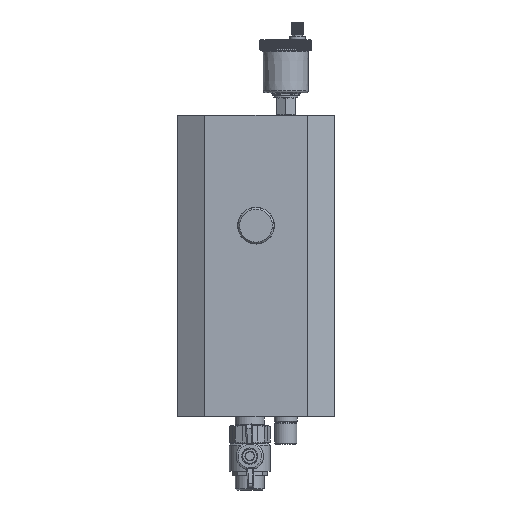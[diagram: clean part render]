
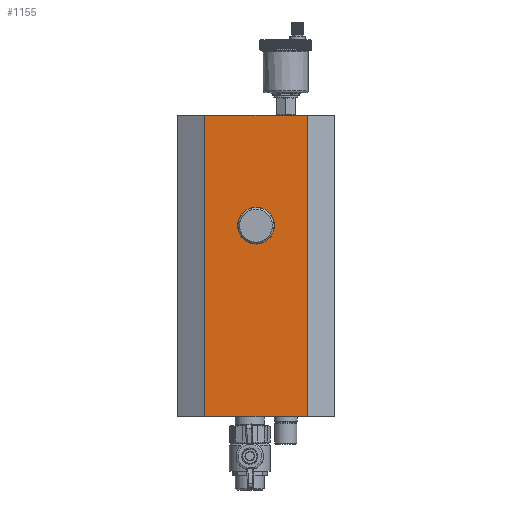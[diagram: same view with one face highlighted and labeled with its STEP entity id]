
A CAD part, left-side view. The second image highlights one B-rep face of the part: STEP entity #1155.
In plain terms, the highlighted planar face has unit normal (-1, 0, 0).
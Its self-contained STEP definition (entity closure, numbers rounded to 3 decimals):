
#359 = PLANE('',#360);
#360 = AXIS2_PLACEMENT_3D('',#361,#362,#363);
#361 = CARTESIAN_POINT('',(0.,-5.7,22.));
#362 = DIRECTION('',(0.,0.,1.));
#363 = DIRECTION('',(1.,0.,0.));
#409 = VERTEX_POINT('',#410);
#410 = CARTESIAN_POINT('',(-75.,41.336,22.));
#424 = PLANE('',#425);
#425 = AXIS2_PLACEMENT_3D('',#426,#427,#428);
#426 = CARTESIAN_POINT('',(-75.,41.336,22.));
#427 = DIRECTION('',(-0.857,0.515,0.)
  );
#428 = DIRECTION('',(0.515,0.857,0.));
#436 = EDGE_CURVE('',#437,#409,#439,.T.);
#437 = VERTEX_POINT('',#438);
#438 = CARTESIAN_POINT('',(-75.,-52.736,22.));
#439 = SURFACE_CURVE('',#440,(#444,#451),.PCURVE_S1.);
#440 = LINE('',#441,#442);
#441 = CARTESIAN_POINT('',(-75.,-52.736,22.));
#442 = VECTOR('',#443,1.);
#443 = DIRECTION('',(0.,1.,0.));
#444 = PCURVE('',#359,#445);
#445 = DEFINITIONAL_REPRESENTATION('',(#446),#450);
#446 = LINE('',#447,#448);
#447 = CARTESIAN_POINT('',(-75.,-47.036));
#448 = VECTOR('',#449,1.);
#449 = DIRECTION('',(0.,1.));
#450 = ( GEOMETRIC_REPRESENTATION_CONTEXT(2) 
PARAMETRIC_REPRESENTATION_CONTEXT() REPRESENTATION_CONTEXT('2D SPACE',''
  ) );
#451 = PCURVE('',#452,#457);
#452 = PLANE('',#453);
#453 = AXIS2_PLACEMENT_3D('',#454,#455,#456);
#454 = CARTESIAN_POINT('',(-75.,-52.736,22.));
#455 = DIRECTION('',(-1.,0.,0.));
#456 = DIRECTION('',(0.,1.,0.));
#457 = DEFINITIONAL_REPRESENTATION('',(#458),#462);
#458 = LINE('',#459,#460);
#459 = CARTESIAN_POINT('',(0.,0.));
#460 = VECTOR('',#461,1.);
#461 = DIRECTION('',(1.,0.));
#462 = ( GEOMETRIC_REPRESENTATION_CONTEXT(2) 
PARAMETRIC_REPRESENTATION_CONTEXT() REPRESENTATION_CONTEXT('2D SPACE',''
  ) );
#480 = PLANE('',#481);
#481 = AXIS2_PLACEMENT_3D('',#482,#483,#484);
#482 = CARTESIAN_POINT('',(-60.,-77.7,22.));
#483 = DIRECTION('',(-0.857,-0.515,0.)
  );
#484 = DIRECTION('',(-0.515,0.857,0.));
#682 = PLANE('',#683);
#683 = AXIS2_PLACEMENT_3D('',#684,#685,#686);
#684 = CARTESIAN_POINT('',(0.,-5.7,298.));
#685 = DIRECTION('',(0.,0.,1.));
#686 = DIRECTION('',(1.,0.,0.));
#1061 = EDGE_CURVE('',#409,#1062,#1064,.T.);
#1062 = VERTEX_POINT('',#1063);
#1063 = CARTESIAN_POINT('',(-75.,41.336,298.));
#1064 = SURFACE_CURVE('',#1065,(#1069,#1076),.PCURVE_S1.);
#1065 = LINE('',#1066,#1067);
#1066 = CARTESIAN_POINT('',(-75.,41.336,22.));
#1067 = VECTOR('',#1068,1.);
#1068 = DIRECTION('',(0.,0.,1.));
#1069 = PCURVE('',#424,#1070);
#1070 = DEFINITIONAL_REPRESENTATION('',(#1071),#1075);
#1071 = LINE('',#1072,#1073);
#1072 = CARTESIAN_POINT('',(0.,0.));
#1073 = VECTOR('',#1074,1.);
#1074 = DIRECTION('',(0.,-1.));
#1075 = ( GEOMETRIC_REPRESENTATION_CONTEXT(2) 
PARAMETRIC_REPRESENTATION_CONTEXT() REPRESENTATION_CONTEXT('2D SPACE',''
  ) );
#1076 = PCURVE('',#452,#1077);
#1077 = DEFINITIONAL_REPRESENTATION('',(#1078),#1082);
#1078 = LINE('',#1079,#1080);
#1079 = CARTESIAN_POINT('',(94.072,0.));
#1080 = VECTOR('',#1081,1.);
#1081 = DIRECTION('',(0.,-1.));
#1082 = ( GEOMETRIC_REPRESENTATION_CONTEXT(2) 
PARAMETRIC_REPRESENTATION_CONTEXT() REPRESENTATION_CONTEXT('2D SPACE',''
  ) );
#1155 = ADVANCED_FACE('',(#1156,#1204),#452,.T.);
#1156 = FACE_BOUND('',#1157,.T.);
#1157 = EDGE_LOOP('',(#1158,#1181,#1202,#1203));
#1158 = ORIENTED_EDGE('',*,*,#1159,.T.);
#1159 = EDGE_CURVE('',#437,#1160,#1162,.T.);
#1160 = VERTEX_POINT('',#1161);
#1161 = CARTESIAN_POINT('',(-75.,-52.736,298.));
#1162 = SURFACE_CURVE('',#1163,(#1167,#1174),.PCURVE_S1.);
#1163 = LINE('',#1164,#1165);
#1164 = CARTESIAN_POINT('',(-75.,-52.736,22.));
#1165 = VECTOR('',#1166,1.);
#1166 = DIRECTION('',(0.,0.,1.));
#1167 = PCURVE('',#452,#1168);
#1168 = DEFINITIONAL_REPRESENTATION('',(#1169),#1173);
#1169 = LINE('',#1170,#1171);
#1170 = CARTESIAN_POINT('',(0.,0.));
#1171 = VECTOR('',#1172,1.);
#1172 = DIRECTION('',(0.,-1.));
#1173 = ( GEOMETRIC_REPRESENTATION_CONTEXT(2) 
PARAMETRIC_REPRESENTATION_CONTEXT() REPRESENTATION_CONTEXT('2D SPACE',''
  ) );
#1174 = PCURVE('',#480,#1175);
#1175 = DEFINITIONAL_REPRESENTATION('',(#1176),#1180);
#1176 = LINE('',#1177,#1178);
#1177 = CARTESIAN_POINT('',(29.124,0.));
#1178 = VECTOR('',#1179,1.);
#1179 = DIRECTION('',(0.,-1.));
#1180 = ( GEOMETRIC_REPRESENTATION_CONTEXT(2) 
PARAMETRIC_REPRESENTATION_CONTEXT() REPRESENTATION_CONTEXT('2D SPACE',''
  ) );
#1181 = ORIENTED_EDGE('',*,*,#1182,.T.);
#1182 = EDGE_CURVE('',#1160,#1062,#1183,.T.);
#1183 = SURFACE_CURVE('',#1184,(#1188,#1195),.PCURVE_S1.);
#1184 = LINE('',#1185,#1186);
#1185 = CARTESIAN_POINT('',(-75.,-52.736,298.));
#1186 = VECTOR('',#1187,1.);
#1187 = DIRECTION('',(0.,1.,0.));
#1188 = PCURVE('',#452,#1189);
#1189 = DEFINITIONAL_REPRESENTATION('',(#1190),#1194);
#1190 = LINE('',#1191,#1192);
#1191 = CARTESIAN_POINT('',(0.,-276.));
#1192 = VECTOR('',#1193,1.);
#1193 = DIRECTION('',(1.,0.));
#1194 = ( GEOMETRIC_REPRESENTATION_CONTEXT(2) 
PARAMETRIC_REPRESENTATION_CONTEXT() REPRESENTATION_CONTEXT('2D SPACE',''
  ) );
#1195 = PCURVE('',#682,#1196);
#1196 = DEFINITIONAL_REPRESENTATION('',(#1197),#1201);
#1197 = LINE('',#1198,#1199);
#1198 = CARTESIAN_POINT('',(-75.,-47.036));
#1199 = VECTOR('',#1200,1.);
#1200 = DIRECTION('',(0.,1.));
#1201 = ( GEOMETRIC_REPRESENTATION_CONTEXT(2) 
PARAMETRIC_REPRESENTATION_CONTEXT() REPRESENTATION_CONTEXT('2D SPACE',''
  ) );
#1202 = ORIENTED_EDGE('',*,*,#1061,.F.);
#1203 = ORIENTED_EDGE('',*,*,#436,.F.);
#1204 = FACE_BOUND('',#1205,.T.);
#1205 = EDGE_LOOP('',(#1206));
#1206 = ORIENTED_EDGE('',*,*,#1207,.T.);
#1207 = EDGE_CURVE('',#1208,#1208,#1210,.T.);
#1208 = VERTEX_POINT('',#1209);
#1209 = CARTESIAN_POINT('',(-75.,11.15,197.));
#1210 = SURFACE_CURVE('',#1211,(#1216,#1227),.PCURVE_S1.);
#1211 = CIRCLE('',#1212,16.85);
#1212 = AXIS2_PLACEMENT_3D('',#1213,#1214,#1215);
#1213 = CARTESIAN_POINT('',(-75.,-5.7,197.));
#1214 = DIRECTION('',(1.,0.,0.));
#1215 = DIRECTION('',(0.,1.,0.));
#1216 = PCURVE('',#452,#1217);
#1217 = DEFINITIONAL_REPRESENTATION('',(#1218),#1226);
#1218 = ( BOUNDED_CURVE() B_SPLINE_CURVE(2,(#1219,#1220,#1221,#1222,
#1223,#1224,#1225),.UNSPECIFIED.,.T.,.F.) B_SPLINE_CURVE_WITH_KNOTS((1,2
    ,2,2,2,1),(-2.094,0.,2.094,4.189,
6.283,8.378),.UNSPECIFIED.) CURVE() 
GEOMETRIC_REPRESENTATION_ITEM() RATIONAL_B_SPLINE_CURVE((1.,0.5,1.,0.5,
1.,0.5,1.)) REPRESENTATION_ITEM('') );
#1219 = CARTESIAN_POINT('',(63.886,-175.));
#1220 = CARTESIAN_POINT('',(63.886,-204.185));
#1221 = CARTESIAN_POINT('',(38.611,-189.593));
#1222 = CARTESIAN_POINT('',(13.336,-175.));
#1223 = CARTESIAN_POINT('',(38.611,-160.407));
#1224 = CARTESIAN_POINT('',(63.886,-145.815));
#1225 = CARTESIAN_POINT('',(63.886,-175.));
#1226 = ( GEOMETRIC_REPRESENTATION_CONTEXT(2) 
PARAMETRIC_REPRESENTATION_CONTEXT() REPRESENTATION_CONTEXT('2D SPACE',''
  ) );
#1227 = PCURVE('',#1228,#1233);
#1228 = CYLINDRICAL_SURFACE('',#1229,16.85);
#1229 = AXIS2_PLACEMENT_3D('',#1230,#1231,#1232);
#1230 = CARTESIAN_POINT('',(-75.,-5.7,197.));
#1231 = DIRECTION('',(1.,0.,0.));
#1232 = DIRECTION('',(0.,1.,0.));
#1233 = DEFINITIONAL_REPRESENTATION('',(#1234),#1238);
#1234 = LINE('',#1235,#1236);
#1235 = CARTESIAN_POINT('',(0.,0.));
#1236 = VECTOR('',#1237,1.);
#1237 = DIRECTION('',(1.,0.));
#1238 = ( GEOMETRIC_REPRESENTATION_CONTEXT(2) 
PARAMETRIC_REPRESENTATION_CONTEXT() REPRESENTATION_CONTEXT('2D SPACE',''
  ) );
